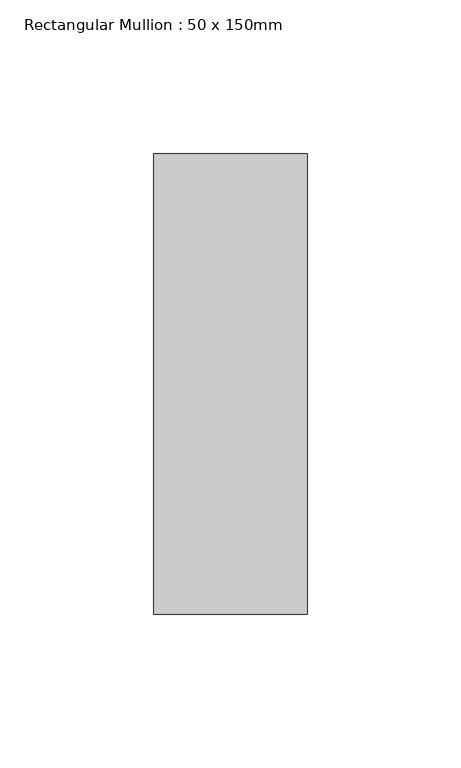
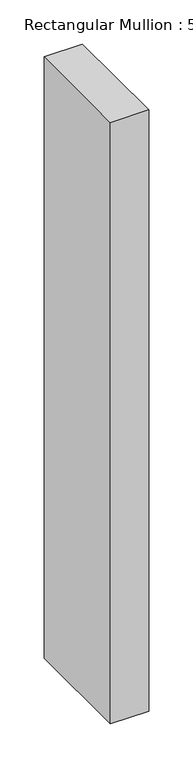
"""IFC4 building model written with IfcOpenShell, lengths in millimetres: member geometry, Rectangular Mullion : 50 x 150mm."""

from ifc_helpers import new_model, si_unit, frame, origin, place, context, project, spatial, polyline, outline, extrude, source, transform, mapped, element, save


def rectangular_mullion_50_x_150mm_70168b46(model_context):
    return source(origin(), model_context, "Body", "SweptSolid", [
        extrude(outline(polyline([(0.0, 75.0), (0.0, -75.0), (-50.0, -75.0), (-50.0, 75.0), (0.0, 75.0)])), frame((0.0, 0.0, -830.7751487), z_axis=(0.0, 0.0, 1.0), x_axis=(1.0, 0.0, 0.0)), (0.0, 0.0, 1.0), 830.7751487),
    ])


if __name__ == "__main__":
    model = new_model("IFC4")
    model_context = context("Model", 3, world=origin())
    ifc_project = project(units=[si_unit("LENGTHUNIT", "METRE", prefix="MILLI")], contexts=[model_context])
    site = spatial("IfcSite", under=ifc_project)
    building = spatial("IfcBuilding", under=site)
    placement = place(None, origin())
    rectangular_mullion_50_x_150mm_shape = rectangular_mullion_50_x_150mm_70168b46(model_context)
    element("IfcMember", 1, ObjectType="Rectangular Mullion : 50 x 150mm", at=placement, inside=building, context=model_context, shape_type="MappedRepresentation", body=[
        mapped(rectangular_mullion_50_x_150mm_shape, transform((0.0, 0.0, 0.0), x_axis=(1.0, 0.0, 0.0), y_axis=(0.0, 1.0, 0.0), z_axis=(0.0, 0.0, 1.0))),
    ])
    save(model, "model.ifc")
